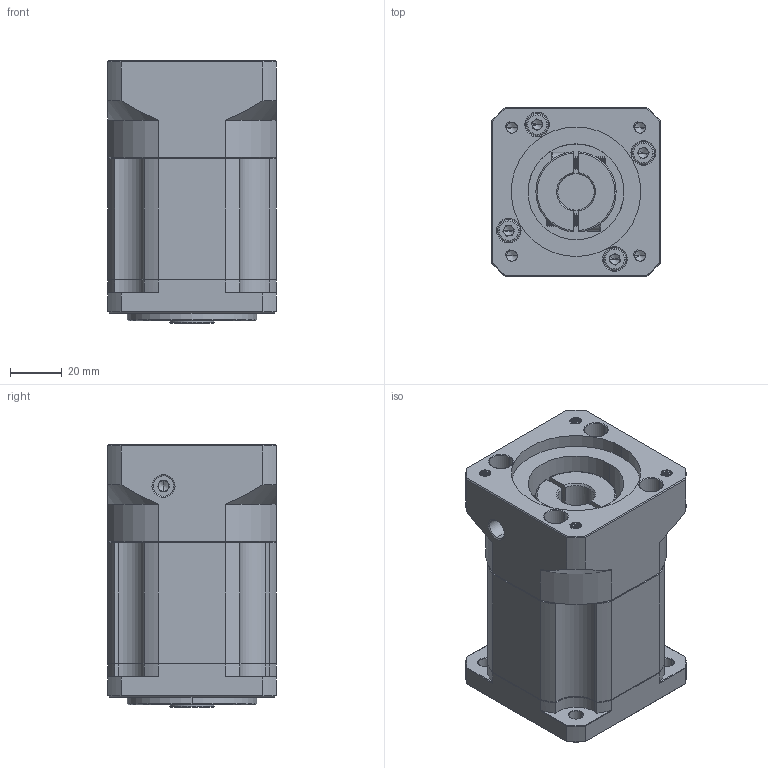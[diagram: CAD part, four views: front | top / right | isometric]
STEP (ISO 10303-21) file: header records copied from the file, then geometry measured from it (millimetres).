
FILE_DESCRIPTION (( 'STEP AP214' ), '1' );
FILE_NAME ('ZB060-K10-L2-P2-14-50-70-M5.step', '2023-08-16T07:11:20', ( '' ), ( '' ), 'SwSTEP 2.0', 'SolidWorks 2016', '' );
FILE_SCHEMA (( 'AUTOMOTIVE_DESIGN' ));
Length unit declared in the file: millimetre
Products named in the file (1): ZB060-K10-L2-P2-14-50-70-M5
Bounding box: 65 x 65 x 101.5 mm (x, y, z)
Volume: 321978.5 mm3; surface area: 57808.1 mm2
Topology: 6 solids, 6 shells, 2111 faces, 5678 edges, 3658 vertices
Faces by surface type: plane 1056, bspline 390, cylinder 354, cone 277, torus 34
Entity records: 111778 total; most frequent: CARTESIAN_POINT 38456, ORIENTED_EDGE 11300, DIRECTION 8986, EDGE_CURVE 5650, VERTEX_POINT 3658, VECTOR 3606, LINE 3606, AXIS2_PLACEMENT_3D 2690
